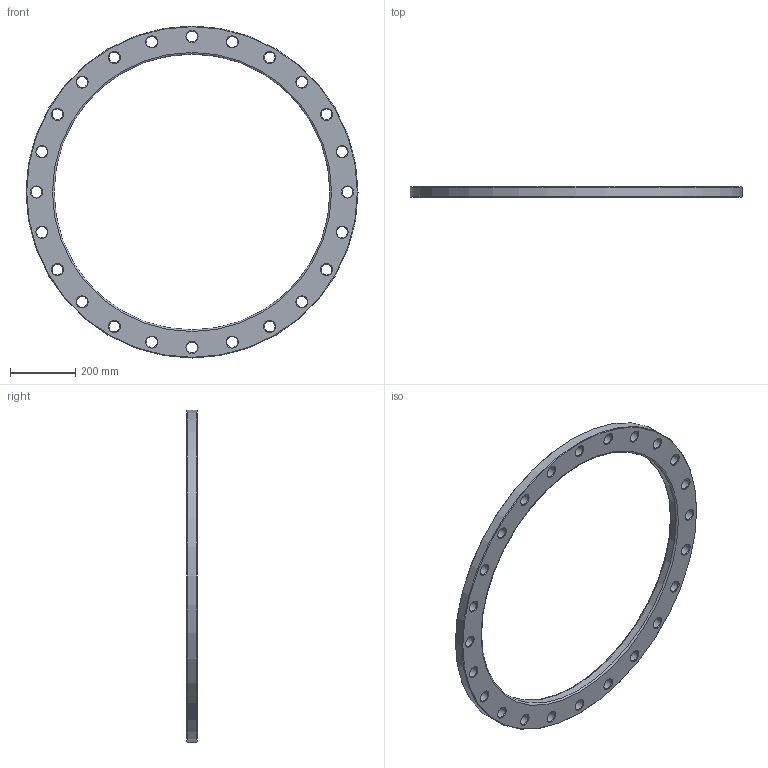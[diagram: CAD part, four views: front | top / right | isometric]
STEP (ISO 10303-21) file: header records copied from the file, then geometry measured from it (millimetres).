
FILE_DESCRIPTION(/* description */ ('Unknown'),/* implementation_level */ '2;1');
FILE_NAME(/* name */ 'FZ800B',/* time_stamp */ '2021-03-15T11:05:46+01:00',/* author */ ('Unknown'),/* organization */ ('Unknown'),/* preprocessor_version */ 'ST-DEVELOPER v16.7',/* originating_system */ 'Solid Edge',/* authorisation */ 'Unknown');
FILE_SCHEMA (('AUTOMOTIVE_DESIGN {1 0 10303 214 3 1 1}'));
Length unit declared in the file: millimetre
Products named in the file (1): FZ800B
Bounding box: 1015 x 32 x 1015 mm (x, y, z)
Volume: 7323366.3 mm3; surface area: 702934.6 mm2
Topology: 1 solids, 1 shells, 80 faces, 254 edges, 176 vertices
Faces by surface type: cone 50, cylinder 26, plane 2, torus 2
Full cylindrical faces by diameter (mm): 33 x24, 843 x1, 1015 x1
Entity records: 1974 total; most frequent: DIRECTION 370, CARTESIAN_POINT 289, ORIENTED_EDGE 208, EDGE_LOOP 208, FACE_BOUND 208, AXIS2_PLACEMENT_3D 185, EDGE_CURVE 104, VERTEX_POINT 104
